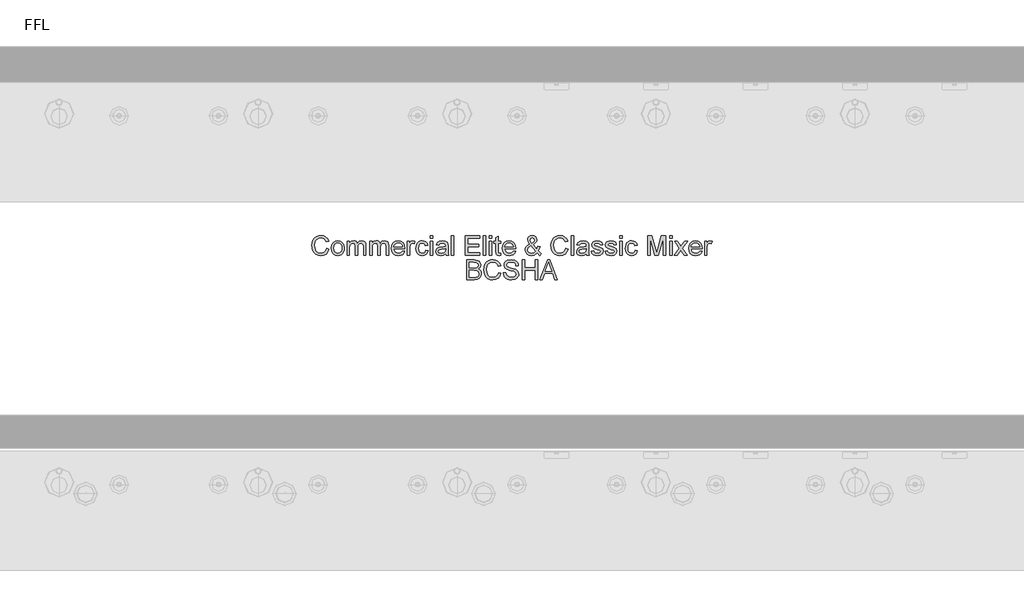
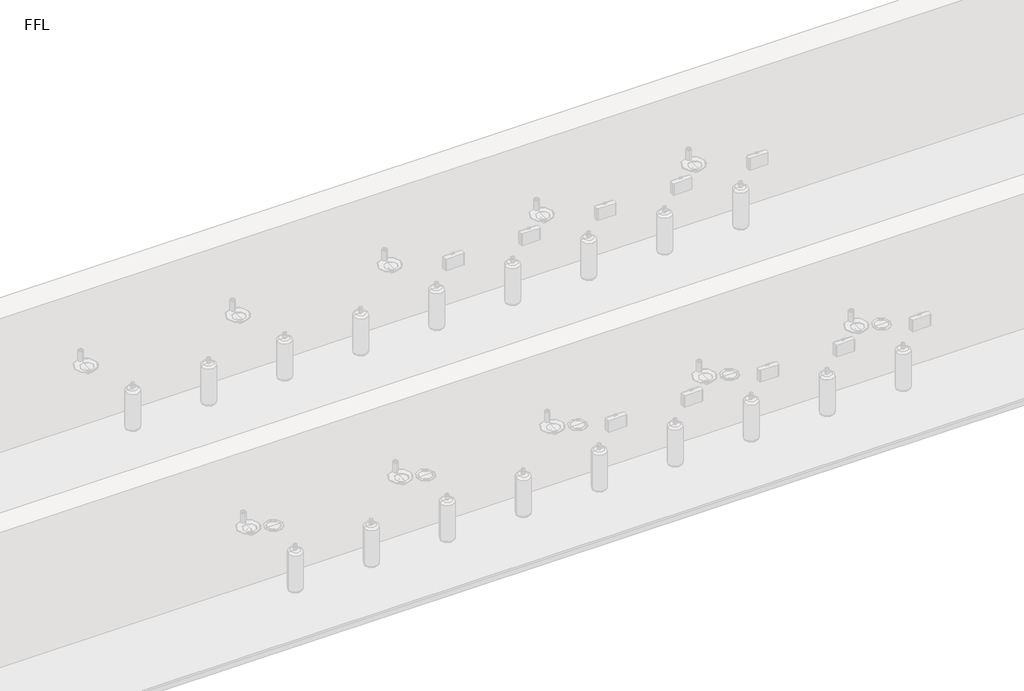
# One storey, part 6 of 13: 1 proxy.
"""IFC4 building model written with IfcOpenShell, lengths in millimetres."""

from ifc_helpers import new_model, si_unit, origin, origin_with_axes, place, context, project, spatial, polyline, outline, extrude, element, save

model = new_model("IFC4")

# Units and contexts
model_context = context("Model", 3, world=origin())
ifc_project = project(units=[si_unit("LENGTHUNIT", "METRE", prefix="MILLI")], contexts=[model_context])

# Site, building, storey
site = spatial("IfcSite", under=ifc_project)
building = spatial("IfcBuilding", under=site)
storey = spatial("IfcBuildingStorey", under=building, Name="FFL", Elevation=0.0)

# Proxy
placement = place(None, origin())
element("IfcBuildingElementProxy", 1, Name="150mm Arial", ObjectType="150mm Arial", at=placement, inside=storey, context=model_context, shape_type="SweptSolid", body=[
    extrude(outline(polyline([(5546.3223994, -1683.6981691), (5564.7839379, -1688.4577845), (5556.2653081, -1709.9707052), (5542.8969187, -1725.6873518), (5525.3368225, -1735.301234), (5504.2430725, -1738.5058614), (5482.8293105, -1736.0809816), (5465.8236014, -1728.8063422), (5452.7887456, -1716.934347), (5443.2875437, -1700.7173999), (5437.4867624, -1681.6518951), (5435.5531687, -1661.2342268), (5437.7391663, -1639.6987701), (5444.2971591, -1621.1020153), (5454.884599, -1606.0344071), (5469.1589379, -1595.0863903), (5486.0880244, -1588.4202244), (5504.6397071, -1586.1981691), (5524.8815941, -1589.0737701), (5541.6168706, -1597.700573), (5554.3226999, -1611.5467268), (5562.4762456, -1630.0803807), (5544.0147071, -1634.4794191), (5537.6144667, -1621.0163783), (5528.8704764, -1611.7811018), (5517.6745629, -1606.4400561), (5503.9185533, -1604.6597076), (5488.0621831, -1606.6338662), (5475.0363417, -1612.5563422), (5465.1520268, -1621.8051403), (5458.720236, -1633.7582653), (5454.0147071, -1661.1981691), (5459.5856206, -1693.0010537), (5466.7070148, -1704.8775561), (5476.9293706, -1713.3195633), (5489.1844788, -1718.3631331), (5502.4041302, -1720.044323), (5517.8142865, -1717.7546595), (5530.6553321, -1710.8856691), (5540.3503441, -1699.5094672), (5546.3223994, -1683.6981691)])), origin_with_axes(), (0.0, 0.0, 1.0), 5.0),
    extrude(outline(polyline([(5583.2454764, -1681.9673999), (5587.2388658, -1655.8165585), (5599.2190341, -1637.4361499), (5614.0207167, -1628.4307412), (5631.7430725, -1625.4289383), (5651.1376038, -1629.0842869), (5666.6288898, -1640.0503326), (5676.7836374, -1657.4616908), (5680.1685533, -1680.4529768), (5678.6721591, -1699.1038182), (5674.1829764, -1713.3015345), (5666.8317143, -1723.9340465), (5656.7490821, -1731.8892749), (5644.7734211, -1736.8517148), (5631.7430725, -1738.5058614), (5612.1141663, -1734.8640345), (5596.6409091, -1723.9385537), (5586.5943345, -1706.1621114), (5583.2454764, -1681.9673999)]), holes=[polyline([(5601.7070148, -1681.9313422), (5603.8434331, -1698.6395754), (5610.2526879, -1710.543121), (5619.8981206, -1717.6690225), (5631.7430725, -1720.044323), (5643.5339379, -1717.6555008), (5653.1613417, -1710.4890345), (5659.5705966, -1698.4277364), (5661.7070148, -1681.3544191), (5659.5570749, -1665.1329648), (5653.1072552, -1653.3916787), (5643.4663297, -1646.2657773), (5631.7430725, -1643.8904768), (5619.8981206, -1646.2567629), (5610.2526879, -1653.355621), (5603.8434331, -1665.2321234), (5601.7070148, -1681.9313422)])]), origin_with_axes(), (0.0, 0.0, 1.0), 5.0),
    extrude(outline(polyline([(5700.9377841, -1736.1981691), (5700.9377841, -1627.7366307), (5719.3993225, -1627.7366307), (5719.3993225, -1645.5851883), (5732.0916302, -1630.9637941), (5750.1565341, -1625.4289383), (5760.4239619, -1626.8396956), (5768.6541302, -1631.0719672), (5778.8223994, -1646.8832653), (5793.2274475, -1630.7925201), (5811.4185533, -1625.4289383), (5825.2962576, -1627.6600081), (5835.5591783, -1634.3532172), (5841.9008249, -1645.6888542), (5844.0147071, -1661.8472076), (5844.0147071, -1736.1981691), (5825.5531687, -1736.1981691), (5825.5531687, -1669.7798999), (5823.8404283, -1654.3652364), (5817.6385052, -1646.7750922), (5807.0916302, -1643.8904768), (5797.0901278, -1645.7384335), (5788.9365821, -1651.2823037), (5783.5144066, -1660.9006932), (5781.7070148, -1674.9722076), (5781.7070148, -1736.1981691), (5763.2454764, -1736.1981691), (5763.2454764, -1667.7246114), (5758.9726398, -1649.839996), (5753.3341182, -1645.3778566), (5744.9642264, -1643.8904768), (5731.298361, -1647.856823), (5722.2118225, -1659.4673999), (5719.3993225, -1681.4986499), (5719.3993225, -1736.1981691), (5700.9377841, -1736.1981691)])), origin_with_axes(), (0.0, 0.0, 1.0), 5.0),
    extrude(outline(polyline([(5871.7070148, -1736.1981691), (5871.7070148, -1627.7366307), (5890.1685533, -1627.7366307), (5890.1685533, -1645.5851883), (5902.860861, -1630.9637941), (5920.9257648, -1625.4289383), (5931.1931927, -1626.8396956), (5939.423361, -1631.0719672), (5949.5916302, -1646.8832653), (5963.9966783, -1630.7925201), (5982.1877841, -1625.4289383), (5996.0654884, -1627.6600081), (6006.3284091, -1634.3532172), (6012.6700557, -1645.6888542), (6014.7839379, -1661.8472076), (6014.7839379, -1736.1981691), (5996.3223994, -1736.1981691), (5996.3223994, -1669.7798999), (5994.6096591, -1654.3652364), (5988.407736, -1646.7750922), (5977.860861, -1643.8904768), (5967.8593586, -1645.7384335), (5959.7058129, -1651.2823037), (5954.2836374, -1660.9006932), (5952.4762456, -1674.9722076), (5952.4762456, -1736.1981691), (5934.0147071, -1736.1981691), (5934.0147071, -1667.7246114), (5929.7418706, -1649.839996), (5924.103349, -1645.3778566), (5915.7334571, -1643.8904768), (5902.0675917, -1647.856823), (5892.9810533, -1659.4673999), (5890.1685533, -1681.4986499), (5890.1685533, -1736.1981691), (5871.7070148, -1736.1981691)])), origin_with_axes(), (0.0, 0.0, 1.0), 5.0),
    extrude(outline(polyline([(6118.4137456, -1703.8904768), (6136.5147071, -1706.1981691), (6129.992772, -1719.8369912), (6119.5856206, -1730.0323037), (6105.5276278, -1736.387472), (6088.0531687, -1738.5058614), (6066.39151, -1734.8505129), (6049.7238417, -1723.8844672), (6039.0958369, -1706.3198638), (6035.5531687, -1682.8688422), (6039.1318946, -1658.6290585), (6049.8680725, -1640.5010537), (6066.3103802, -1629.1969672), (6087.0074956, -1625.4289383), (6107.0600797, -1629.1879528), (6123.0832167, -1640.464996), (6133.5895268, -1658.5569432), (6137.0916302, -1682.7606691), (6136.9834571, -1687.7366307), (6054.0147071, -1687.7366307), (6057.2103201, -1701.5557412), (6064.6336975, -1711.714996), (6075.3473393, -1717.9619912), (6088.4137456, -1720.044323), (6106.5147071, -1716.1861499), (6118.4137456, -1703.8904768)]), holes=[polyline([(6054.0147071, -1669.2750922), (6118.6300917, -1669.2750922), (6116.1330966, -1659.5214864), (6111.2382648, -1652.544323), (6100.4750437, -1646.0539383), (6086.9353802, -1643.8904768), (6074.4909691, -1645.6167388), (6064.2010052, -1650.7955249), (6057.0480605, -1658.8679408), (6054.0147071, -1669.2750922)])]), origin_with_axes(), (0.0, 0.0, 1.0), 5.0),
    extrude(outline(polyline([(6155.5531687, -1736.1981691), (6155.5531687, -1627.7366307), (6171.7070148, -1627.7366307), (6171.7070148, -1643.7823037), (6183.173361, -1628.9986499), (6194.7118225, -1625.4289383), (6213.2454764, -1631.1260537), (6207.079611, -1647.6765345), (6194.0988417, -1643.8904768), (6183.6601398, -1647.5323037), (6177.0074956, -1657.6284576), (6174.0147071, -1679.1909576), (6174.0147071, -1736.1981691), (6155.5531687, -1736.1981691)])), origin_with_axes(), (0.0, 0.0, 1.0), 5.0),
    extrude(outline(polyline([(6294.0147071, -1696.9673999), (6312.4762456, -1699.2750922), (6307.32901, -1715.6948638), (6297.6565341, -1728.1032172), (6284.3692744, -1735.9052004), (6268.3776879, -1738.5058614), (6248.7397672, -1734.8775561), (6233.3836975, -1723.9926403), (6223.4723393, -1706.3288783), (6220.1685533, -1682.3640345), (6225.8115821, -1651.6969672), (6232.9329764, -1640.1990706), (6243.0111014, -1631.9914383), (6255.0678922, -1627.0695633), (6268.1252841, -1625.4289383), (6283.7247432, -1627.6825441), (6296.1961975, -1634.4433614), (6305.1430124, -1645.3508133), (6310.1685533, -1660.044323), (6291.7070148, -1662.3520153), (6283.1433129, -1648.5238903), (6268.2695148, -1643.8904768), (6256.3389259, -1646.1711258), (6246.8692744, -1653.013073), (6240.6898874, -1664.7859095), (6238.6300917, -1681.8592268), (6240.6448153, -1699.1624119), (6246.688986, -1710.9758133), (6255.9873634, -1717.7771956), (6267.7647071, -1720.044323), (6277.3245028, -1718.6290585), (6285.1625437, -1714.3832653), (6290.8641663, -1707.1987701), (6294.0147071, -1696.9673999)])), origin_with_axes(), (0.0, 0.0, 1.0), 5.0),
    extrude(outline(polyline([(6328.6300917, -1606.9673999), (6328.6300917, -1588.5058614), (6347.0916302, -1588.5058614), (6347.0916302, -1606.9673999), (6328.6300917, -1606.9673999)])), origin_with_axes(), (0.0, 0.0, 1.0), 5.0),
    extrude(outline(polyline([(6328.6300917, -1736.1981691), (6328.6300917, -1627.7366307), (6347.0916302, -1627.7366307), (6347.0916302, -1736.1981691), (6328.6300917, -1736.1981691)])), origin_with_axes(), (0.0, 0.0, 1.0), 5.0),
    extrude(outline(polyline([(6444.0147071, -1722.3520153), (6426.1120629, -1734.8640345), (6406.3344187, -1738.5058614), (6390.9062336, -1736.3153566), (6379.5255244, -1729.7438422), (6372.5077961, -1719.7648758), (6370.1685533, -1707.3520153), (6373.7022071, -1692.7486499), (6382.9870629, -1682.1476883), (6395.9137456, -1676.089996), (6411.8873033, -1673.3135537), (6443.9065341, -1666.9673999), (6444.0147071, -1662.856823), (6442.7436735, -1654.6176403), (6438.9305725, -1649.2270153), (6430.4029283, -1645.2246114), (6418.5219187, -1643.8904768), (6399.8440341, -1647.4421595), (6390.9377841, -1660.044323), (6372.4762456, -1657.7366307), (6380.4630244, -1639.7077845), (6396.5447552, -1629.1428807), (6420.9017264, -1625.4289383), (6443.2755244, -1628.7101883), (6455.9137456, -1636.949371), (6461.5748033, -1649.4794191), (6462.4762456, -1665.6332653), (6462.4762456, -1688.6020153), (6463.4137456, -1720.6753326), (6467.0916302, -1736.1981691), (6448.6300917, -1736.1981691), (6444.0147071, -1722.3520153)]), holes=[polyline([(6444.0147071, -1685.4289383), (6414.2310533, -1691.089996), (6398.3476398, -1694.0827845), (6391.1541302, -1698.950573), (6388.6300917, -1706.0539383), (6394.1288898, -1716.0419191), (6410.2647071, -1720.044323), (6428.9425917, -1715.6272557), (6440.985861, -1704.9361499), (6443.9065341, -1690.6573037), (6444.0147071, -1685.4289383)])]), origin_with_axes(), (0.0, 0.0, 1.0), 5.0),
    extrude(outline(polyline([(6487.860861, -1736.1981691), (6487.860861, -1588.5058614), (6506.3223994, -1588.5058614), (6506.3223994, -1736.1981691), (6487.860861, -1736.1981691)])), origin_with_axes(), (0.0, 0.0, 1.0), 5.0),
    extrude(outline(polyline([(6594.0147071, -1736.1981691), (6594.0147071, -1588.5058614), (6700.1685533, -1588.5058614), (6700.1685533, -1606.9673999), (6612.4762456, -1606.9673999), (6612.4762456, -1650.8135537), (6695.5531687, -1650.8135537), (6695.5531687, -1669.2750922), (6612.4762456, -1669.2750922), (6612.4762456, -1717.7366307), (6702.4762456, -1717.7366307), (6702.4762456, -1736.1981691), (6594.0147071, -1736.1981691)])), origin_with_axes(), (0.0, 0.0, 1.0), 5.0),
    extrude(outline(polyline([(6727.860861, -1736.1981691), (6727.860861, -1588.5058614), (6746.3223994, -1588.5058614), (6746.3223994, -1736.1981691), (6727.860861, -1736.1981691)])), origin_with_axes(), (0.0, 0.0, 1.0), 5.0),
    extrude(outline(polyline([(6774.0147071, -1736.1981691), (6774.0147071, -1627.7366307), (6792.4762456, -1627.7366307), (6792.4762456, -1736.1981691), (6774.0147071, -1736.1981691)])), origin_with_axes(), (0.0, 0.0, 1.0), 5.0),
    extrude(outline(polyline([(6774.0147071, -1606.9673999), (6774.0147071, -1588.5058614), (6792.4762456, -1588.5058614), (6792.4762456, -1606.9673999), (6774.0147071, -1606.9673999)])), origin_with_axes(), (0.0, 0.0, 1.0), 5.0),
    extrude(outline(polyline([(6859.3993225, -1720.8015345), (6861.7070148, -1736.7390345), (6847.8969187, -1738.5058614), (6832.4281687, -1735.4409576), (6824.7118225, -1727.4000922), (6822.4762456, -1706.450573), (6822.4762456, -1646.1981691), (6808.6300917, -1646.1981691), (6808.6300917, -1627.7366307), (6822.4762456, -1627.7366307), (6822.4762456, -1601.3784576), (6840.9377841, -1590.5250922), (6840.9377841, -1627.7366307), (6859.3993225, -1627.7366307), (6859.3993225, -1646.1981691), (6840.9377841, -1646.1981691), (6840.9377841, -1705.9097076), (6841.9113417, -1715.4289383), (6845.0663898, -1718.8003326), (6851.3584571, -1720.044323), (6859.3993225, -1720.8015345)])), origin_with_axes(), (0.0, 0.0, 1.0), 5.0),
    extrude(outline(polyline([(6953.798361, -1703.8904768), (6971.8993225, -1706.1981691), (6965.3773874, -1719.8369912), (6954.970236, -1730.0323037), (6940.9122432, -1736.387472), (6923.4377841, -1738.5058614), (6901.7761254, -1734.8505129), (6885.1084571, -1723.8844672), (6874.4804523, -1706.3198638), (6870.9377841, -1682.8688422), (6874.51651, -1658.6290585), (6885.2526879, -1640.5010537), (6901.6949956, -1629.1969672), (6922.392111, -1625.4289383), (6942.4446951, -1629.1879528), (6958.4678321, -1640.464996), (6968.9741422, -1658.5569432), (6972.4762456, -1682.7606691), (6972.3680725, -1687.7366307), (6889.3993225, -1687.7366307), (6892.5949355, -1701.5557412), (6900.0183129, -1711.714996), (6910.7319547, -1717.9619912), (6923.798361, -1720.044323), (6941.8993225, -1716.1861499), (6953.798361, -1703.8904768)]), holes=[polyline([(6889.3993225, -1669.2750922), (6954.0147071, -1669.2750922), (6951.5177119, -1659.5214864), (6946.6228802, -1652.544323), (6935.8596591, -1646.0539383), (6922.3199956, -1643.8904768), (6909.8755845, -1645.6167388), (6899.5856206, -1650.7955249), (6892.4326759, -1658.8679408), (6889.3993225, -1669.2750922)])]), origin_with_axes(), (0.0, 0.0, 1.0), 5.0),
    extrude(outline(polyline([(7133.329611, -1717.9529768), (7113.7502841, -1733.3676403), (7090.8536494, -1738.5058614), (7070.4810533, -1734.7017749), (7054.7959571, -1723.2895153), (7046.7100196, -1710.1555008), (7044.0147071, -1695.5611499), (7046.1826759, -1682.6254528), (7052.6865821, -1671.0058614), (7063.4993826, -1660.7113903), (7078.5940341, -1651.7510537), (7065.7034091, -1633.0731691), (7062.4762456, -1619.2270153), (7065.0183129, -1606.7600682), (7072.6445148, -1596.0419191), (7084.1198754, -1588.6591066), (7098.2094187, -1586.1981691), (7111.6138658, -1588.5509335), (7122.3320148, -1595.6092268), (7129.3632648, -1605.9667989), (7131.7070148, -1618.2173999), (7129.9717384, -1628.5028566), (7124.7659091, -1638.013073), (7103.9425917, -1654.7077845), (7130.6613417, -1687.9890345), (7138.6300917, -1667.544323), (7157.0916302, -1671.5467268), (7144.0387456, -1701.9433614), (7166.3223994, -1724.2991307), (7152.4762456, -1738.5058614), (7133.329611, -1717.9529768)]), holes=[polyline([(7094.6036494, -1643.0611499), (7109.7839379, -1631.6128326), (7113.2454764, -1620.7414383), (7108.6841783, -1609.1488903), (7097.2719187, -1604.6597076), (7085.6072552, -1609.1128326), (7080.9377841, -1619.9842268), (7082.5243225, -1626.7450441), (7087.3199956, -1634.263073), (7094.6036494, -1643.0611499)]), polyline([(7120.9618225, -1704.6476883), (7088.0050917, -1663.5058614), (7067.7226398, -1678.9746114), (7062.4762456, -1693.1092268), (7064.2701158, -1701.8171595), (7069.6517264, -1710.8496114), (7078.3236014, -1717.7456451), (7089.9882648, -1720.044323), (7106.9534091, -1715.7534576), (7120.9618225, -1704.6476883)])]), origin_with_axes(), (0.0, 0.0, 1.0), 5.0),
    extrude(outline(polyline([(7348.6300917, -1683.6981691), (7367.0916302, -1688.4577845), (7358.5730004, -1709.9707052), (7345.204611, -1725.6873518), (7327.6445148, -1735.301234), (7306.5507648, -1738.5058614), (7285.1370028, -1736.0809816), (7268.1312937, -1728.8063422), (7255.0964379, -1716.934347), (7245.595236, -1700.7173999), (7239.7944547, -1681.6518951), (7237.860861, -1661.2342268), (7240.0468586, -1639.6987701), (7246.6048514, -1621.1020153), (7257.1922913, -1606.0344071), (7271.4666302, -1595.0863903), (7288.3957167, -1588.4202244), (7306.9473994, -1586.1981691), (7327.1892865, -1589.0737701), (7343.9245629, -1597.700573), (7356.6303922, -1611.5467268), (7364.7839379, -1630.0803807), (7346.3223994, -1634.4794191), (7339.9221591, -1621.0163783), (7331.1781687, -1611.7811018), (7319.9822552, -1606.4400561), (7306.2262456, -1604.6597076), (7290.3698754, -1606.6338662), (7277.3440341, -1612.5563422), (7267.4597191, -1621.8051403), (7261.0279283, -1633.7582653), (7256.3223994, -1661.1981691), (7261.8933129, -1693.0010537), (7269.0147071, -1704.8775561), (7279.2370629, -1713.3195633), (7291.4921711, -1718.3631331), (7304.7118225, -1720.044323), (7320.1219788, -1717.7546595), (7332.9630244, -1710.8856691), (7342.6580365, -1699.5094672), (7348.6300917, -1683.6981691)])), origin_with_axes(), (0.0, 0.0, 1.0), 5.0),
    extrude(outline(polyline([(7390.1685533, -1736.1981691), (7390.1685533, -1588.5058614), (7408.6300917, -1588.5058614), (7408.6300917, -1736.1981691), (7390.1685533, -1736.1981691)])), origin_with_axes(), (0.0, 0.0, 1.0), 5.0),
    extrude(outline(polyline([(7505.5531687, -1722.3520153), (7487.6505244, -1734.8640345), (7467.8728802, -1738.5058614), (7452.4446951, -1736.3153566), (7441.063986, -1729.7438422), (7434.0462576, -1719.7648758), (7431.7070148, -1707.3520153), (7435.2406687, -1692.7486499), (7444.5255244, -1682.1476883), (7457.4522071, -1676.089996), (7473.4257648, -1673.3135537), (7505.4449956, -1666.9673999), (7505.5531687, -1662.856823), (7504.282135, -1654.6176403), (7500.4690341, -1649.2270153), (7491.9413898, -1645.2246114), (7480.0603802, -1643.8904768), (7461.3824956, -1647.4421595), (7452.4762456, -1660.044323), (7434.0147071, -1657.7366307), (7442.001486, -1639.7077845), (7458.0832167, -1629.1428807), (7482.4401879, -1625.4289383), (7504.813986, -1628.7101883), (7517.4522071, -1636.949371), (7523.1132648, -1649.4794191), (7524.0147071, -1665.6332653), (7524.0147071, -1688.6020153), (7524.9522071, -1720.6753326), (7528.6300917, -1736.1981691), (7510.1685533, -1736.1981691), (7505.5531687, -1722.3520153)]), holes=[polyline([(7505.5531687, -1685.4289383), (7475.7695148, -1691.089996), (7459.8861014, -1694.0827845), (7452.6925917, -1698.950573), (7450.1685533, -1706.0539383), (7455.6673514, -1716.0419191), (7471.8031687, -1720.044323), (7490.4810533, -1715.6272557), (7502.5243225, -1704.9361499), (7505.4449956, -1690.6573037), (7505.5531687, -1685.4289383)])]), origin_with_axes(), (0.0, 0.0, 1.0), 5.0),
    extrude(outline(polyline([(7542.4762456, -1703.8904768), (7560.9377841, -1701.5827845), (7563.8494427, -1709.4794191), (7569.4834571, -1715.2847076), (7589.0627841, -1720.044323), (7607.8848994, -1715.6813422), (7614.0147071, -1705.4409576), (7607.8488417, -1697.1476883), (7588.8464379, -1691.8832653), (7561.0459571, -1682.8508133), (7548.9125437, -1672.3039383), (7544.7839379, -1657.4121114), (7548.1012456, -1643.6561018), (7557.1517264, -1633.1452845), (7568.8885052, -1627.6825441), (7584.7719187, -1625.4289383), (7607.235861, -1629.0527364), (7621.5147071, -1638.8604287), (7627.860861, -1655.4289383), (7609.3993225, -1657.7366307), (7602.4582167, -1647.5503326), (7586.2142264, -1643.8904768), (7568.5459571, -1647.388073), (7563.2454764, -1655.5371114), (7565.4449956, -1660.9097076), (7572.3320148, -1664.9842268), (7588.2334571, -1668.9145153), (7615.3308129, -1677.6044191), (7627.9149475, -1687.4481691), (7632.4762456, -1703.4938422), (7627.1216783, -1721.1621114), (7611.6709571, -1733.980621), (7588.8103802, -1738.5058614), (7570.1955966, -1736.324371), (7556.610861, -1729.7798999), (7547.5423514, -1718.9445633), (7542.4762456, -1703.8904768)])), origin_with_axes(), (0.0, 0.0, 1.0), 5.0),
    extrude(outline(polyline([(7646.3223994, -1703.8904768), (7664.7839379, -1701.5827845), (7667.6955966, -1709.4794191), (7673.329611, -1715.2847076), (7692.9089379, -1720.044323), (7711.7310533, -1715.6813422), (7717.860861, -1705.4409576), (7711.6949956, -1697.1476883), (7692.6925917, -1691.8832653), (7664.892111, -1682.8508133), (7652.7586975, -1672.3039383), (7648.6300917, -1657.4121114), (7651.9473994, -1643.6561018), (7660.9978802, -1633.1452845), (7672.7346591, -1627.6825441), (7688.6180725, -1625.4289383), (7711.0820148, -1629.0527364), (7725.360861, -1638.8604287), (7731.7070148, -1655.4289383), (7713.2454764, -1657.7366307), (7706.3043706, -1647.5503326), (7690.0603802, -1643.8904768), (7672.392111, -1647.388073), (7667.0916302, -1655.5371114), (7669.2911494, -1660.9097076), (7676.1781687, -1664.9842268), (7692.079611, -1668.9145153), (7719.1769667, -1677.6044191), (7731.7611014, -1687.4481691), (7736.3223994, -1703.4938422), (7730.9678321, -1721.1621114), (7715.517111, -1733.980621), (7692.6565341, -1738.5058614), (7674.0417504, -1736.324371), (7660.4570148, -1729.7798999), (7651.3885052, -1718.9445633), (7646.3223994, -1703.8904768)])), origin_with_axes(), (0.0, 0.0, 1.0), 5.0),
    extrude(outline(polyline([(7757.0916302, -1736.1981691), (7757.0916302, -1627.7366307), (7775.5531687, -1627.7366307), (7775.5531687, -1736.1981691), (7757.0916302, -1736.1981691)])), origin_with_axes(), (0.0, 0.0, 1.0), 5.0),
    extrude(outline(polyline([(7757.0916302, -1606.9673999), (7757.0916302, -1588.5058614), (7775.5531687, -1588.5058614), (7775.5531687, -1606.9673999), (7757.0916302, -1606.9673999)])), origin_with_axes(), (0.0, 0.0, 1.0), 5.0),
    extrude(outline(polyline([(7872.4762456, -1696.9673999), (7890.9377841, -1699.2750922), (7885.7905485, -1715.6948638), (7876.1180725, -1728.1032172), (7862.8308129, -1735.9052004), (7846.8392264, -1738.5058614), (7827.2013057, -1734.8775561), (7811.845236, -1723.9926403), (7801.9338778, -1706.3288783), (7798.6300917, -1682.3640345), (7804.2731206, -1651.6969672), (7811.3945148, -1640.1990706), (7821.4726398, -1631.9914383), (7833.5294307, -1627.0695633), (7846.5868225, -1625.4289383), (7862.1862816, -1627.6825441), (7874.657736, -1634.4433614), (7883.6045509, -1645.3508133), (7888.6300917, -1660.044323), (7870.1685533, -1662.3520153), (7861.6048514, -1648.5238903), (7846.7310533, -1643.8904768), (7834.8004643, -1646.1711258), (7825.3308129, -1653.013073), (7819.1514259, -1664.7859095), (7817.0916302, -1681.8592268), (7819.1063538, -1699.1624119), (7825.1505244, -1710.9758133), (7834.4489018, -1717.7771956), (7846.2262456, -1720.044323), (7855.7860413, -1718.6290585), (7863.6240821, -1714.3832653), (7869.3257047, -1707.1987701), (7872.4762456, -1696.9673999)])), origin_with_axes(), (0.0, 0.0, 1.0), 5.0),
    extrude(outline(polyline([(7967.0916302, -1736.1981691), (7967.0916302, -1588.5058614), (7998.8584571, -1588.5058614), (8029.0748033, -1692.6044191), (8035.1685533, -1714.3472076), (8041.767111, -1690.8015345), (8071.4786494, -1588.5058614), (8103.2454764, -1588.5058614), (8103.2454764, -1736.1981691), (8084.7839379, -1736.1981691), (8084.7839379, -1606.9673999), (8047.6805725, -1736.1981691), (8022.6565341, -1736.1981691), (7985.5531687, -1606.9673999), (7985.5531687, -1736.1981691), (7967.0916302, -1736.1981691)])), origin_with_axes(), (0.0, 0.0, 1.0), 5.0),
    extrude(outline(polyline([(8133.2454764, -1606.9673999), (8133.2454764, -1588.5058614), (8151.7070148, -1588.5058614), (8151.7070148, -1606.9673999), (8133.2454764, -1606.9673999)])), origin_with_axes(), (0.0, 0.0, 1.0), 5.0),
    extrude(outline(polyline([(8133.2454764, -1736.1981691), (8133.2454764, -1627.7366307), (8151.7070148, -1627.7366307), (8151.7070148, -1736.1981691), (8133.2454764, -1736.1981691)])), origin_with_axes(), (0.0, 0.0, 1.0), 5.0),
    extrude(outline(polyline([(8167.860861, -1736.1981691), (8207.3079764, -1681.6789383), (8170.1685533, -1627.7366307), (8192.3800917, -1627.7366307), (8210.3007648, -1653.6981691), (8218.6661494, -1665.9577845), (8225.9137456, -1655.933746), (8246.3223994, -1627.7366307), (8268.5339379, -1627.7366307), (8229.5195148, -1681.6789383), (8267.0916302, -1736.1981691), (8244.8800917, -1736.1981691), (8222.2719187, -1703.4217268), (8218.1252841, -1697.4361499), (8190.0723994, -1736.1981691), (8167.860861, -1736.1981691)])), origin_with_axes(), (0.0, 0.0, 1.0), 5.0),
    extrude(outline(polyline([(8359.1829764, -1703.8904768), (8377.2839379, -1706.1981691), (8370.7620028, -1719.8369912), (8360.3548514, -1730.0323037), (8346.2968586, -1736.387472), (8328.8223994, -1738.5058614), (8307.1607408, -1734.8505129), (8290.4930725, -1723.8844672), (8279.8650677, -1706.3198638), (8276.3223994, -1682.8688422), (8279.9011254, -1658.6290585), (8290.6373033, -1640.5010537), (8307.079611, -1629.1969672), (8327.7767264, -1625.4289383), (8347.8293105, -1629.1879528), (8363.8524475, -1640.464996), (8374.3587576, -1658.5569432), (8377.860861, -1682.7606691), (8377.7526879, -1687.7366307), (8294.7839379, -1687.7366307), (8297.9795509, -1701.5557412), (8305.4029283, -1711.714996), (8316.1165701, -1717.9619912), (8329.1829764, -1720.044323), (8347.2839379, -1716.1861499), (8359.1829764, -1703.8904768)]), holes=[polyline([(8294.7839379, -1669.2750922), (8359.3993225, -1669.2750922), (8356.9023273, -1659.5214864), (8352.0074956, -1652.544323), (8341.2442744, -1646.0539383), (8327.704611, -1643.8904768), (8315.2601999, -1645.6167388), (8304.970236, -1650.7955249), (8297.8172913, -1658.8679408), (8294.7839379, -1669.2750922)])]), origin_with_axes(), (0.0, 0.0, 1.0), 5.0),
    extrude(outline(polyline([(8396.3223994, -1736.1981691), (8396.3223994, -1627.7366307), (8412.4762456, -1627.7366307), (8412.4762456, -1643.7823037), (8423.9425917, -1628.9986499), (8435.4810533, -1625.4289383), (8454.0147071, -1631.1260537), (8447.8488417, -1647.6765345), (8434.8680725, -1643.8904768), (8424.4293706, -1647.5323037), (8417.7767264, -1657.6284576), (8414.7839379, -1679.1909576), (8414.7839379, -1736.1981691), (8396.3223994, -1736.1981691)])), origin_with_axes(), (0.0, 0.0, 1.0), 5.0),
    extrude(outline(polyline([(6603.2454764, -1918.5058614), (6603.2454764, -1770.8135537), (6659.6036494, -1770.8135537), (6687.2058129, -1775.1585057), (6696.4816542, -1780.6708254), (6703.5038898, -1788.5178807), (6709.3993225, -1807.4121114), (6704.4413898, -1824.6657172), (6689.4594187, -1837.7366307), (6699.9206566, -1843.199371), (6707.6505244, -1851.5106691), (6712.4236615, -1862.1206451), (6714.0147071, -1874.4794191), (6709.6697552, -1894.3291787), (6698.9065341, -1908.4637941), (6682.8428321, -1915.9637941), (6659.1709571, -1918.5058614), (6603.2454764, -1918.5058614)]), holes=[polyline([(6621.7070148, -1830.8135537), (6655.4209571, -1830.8135537), (6675.1084571, -1829.2270153), (6686.9534091, -1822.3940826), (6690.9377841, -1810.3688422), (6687.2238417, -1798.325573), (6676.5868225, -1791.2041787), (6652.860861, -1789.2750922), (6621.7070148, -1789.2750922), (6621.7070148, -1830.8135537)]), polyline([(6621.7070148, -1900.044323), (6659.5675917, -1900.044323), (6673.2695148, -1899.3231691), (6684.8620629, -1895.3027364), (6692.5423514, -1887.0996114), (6695.5531687, -1874.6597076), (6692.0195148, -1860.308746), (6680.5711975, -1851.7450441), (6657.7647071, -1849.2750922), (6621.7070148, -1849.2750922), (6621.7070148, -1900.044323)])]), origin_with_axes(), (0.0, 0.0, 1.0), 5.0),
    extrude(outline(polyline([(6843.2454764, -1866.0058614), (6861.7070148, -1870.7654768), (6853.188385, -1892.2783975), (6839.8199956, -1907.9950441), (6822.2598994, -1917.6089263), (6801.1661494, -1920.8135537), (6779.7523874, -1918.3886739), (6762.7466783, -1911.1140345), (6749.7118225, -1899.2420393), (6740.2106206, -1883.0250922), (6734.4098393, -1863.9595874), (6732.4762456, -1843.5419191), (6734.6622432, -1822.0064624), (6741.220236, -1803.4097076), (6751.8076759, -1788.3420994), (6766.0820148, -1777.3940826), (6783.0111014, -1770.7279167), (6801.5627841, -1768.5058614), (6821.8046711, -1771.3814624), (6838.5399475, -1780.0082653), (6851.2457768, -1793.8544191), (6859.3993225, -1812.388073), (6840.9377841, -1816.7871114), (6834.5375437, -1803.3240706), (6825.7935533, -1794.0887941), (6814.5976398, -1788.7477484), (6800.8416302, -1786.9673999), (6784.98526, -1788.9415585), (6771.9594187, -1794.8640345), (6762.0751038, -1804.1128326), (6755.6433129, -1816.0659576), (6750.9377841, -1843.5058614), (6756.5086975, -1875.308746), (6763.6300917, -1887.1852484), (6773.8524475, -1895.6272557), (6786.1075557, -1900.6708254), (6799.3272071, -1902.3520153), (6814.7373634, -1900.0623518), (6827.5784091, -1893.1933614), (6837.2734211, -1881.8171595), (6843.2454764, -1866.0058614)])), origin_with_axes(), (0.0, 0.0, 1.0), 5.0),
    extrude(outline(polyline([(6880.1685533, -1867.7366307), (6898.6300917, -1867.7366307), (6904.579611, -1886.216198), (6919.110861, -1897.8988903), (6941.2502841, -1902.3520153), (6960.5411494, -1898.980621), (6972.9990821, -1889.7137941), (6977.0916302, -1877.3279768), (6974.0267264, -1865.8075441), (6961.4786494, -1857.4241307), (6934.5976398, -1850.3748518), (6905.6613417, -1841.2702845), (6889.9582167, -1827.5323037), (6884.7839379, -1809.1789383), (6886.383998, -1798.3661379), (6891.1841783, -1788.2835057), (6899.0582768, -1779.7378326), (6909.8800917, -1773.5359095), (6937.2478802, -1768.5058614), (6966.454611, -1773.7702845), (6977.6505244, -1780.2696835), (6985.9257648, -1789.2390345), (6991.1631446, -1800.1194432), (6993.2454764, -1812.3520153), (6974.7839379, -1812.3520153), (6971.3945148, -1801.3363903), (6964.3272071, -1793.3856691), (6953.2845389, -1788.5719672), (6937.9690341, -1786.9673999), (6922.2929523, -1788.5539383), (6911.5387456, -1793.3135537), (6905.3187937, -1800.3177605), (6903.2454764, -1808.638073), (6904.7148273, -1815.7324239), (6909.1228802, -1821.4385537), (6939.267111, -1831.7510537), (6971.9353802, -1841.0178807), (6982.4597191, -1847.715597), (6989.8019667, -1855.981823), (6995.5531687, -1876.8592268), (6993.899022, -1888.2399359), (6988.9365821, -1898.9445633), (6980.8686735, -1908.1573037), (6969.8981206, -1915.0623518), (6941.9714379, -1920.8135537), (6923.883998, -1919.263073), (6908.9966783, -1914.6116307), (6897.1382047, -1906.841198), (6888.1373033, -1895.933746), (6882.3590581, -1882.6464864), (6880.1685533, -1867.7366307)])), origin_with_axes(), (0.0, 0.0, 1.0), 5.0),
    extrude(outline(polyline([(7023.2454764, -1918.5058614), (7023.2454764, -1770.8135537), (7041.7070148, -1770.8135537), (7041.7070148, -1830.8135537), (7120.1685533, -1830.8135537), (7120.1685533, -1770.8135537), (7138.6300917, -1770.8135537), (7138.6300917, -1918.5058614), (7120.1685533, -1918.5058614), (7120.1685533, -1849.2750922), (7041.7070148, -1849.2750922), (7041.7070148, -1918.5058614), (7023.2454764, -1918.5058614)])), origin_with_axes(), (0.0, 0.0, 1.0), 5.0),
    extrude(outline(polyline([(7153.7382648, -1918.5058614), (7212.6925917, -1770.8135537), (7228.4137456, -1770.8135537), (7287.3680725, -1918.5058614), (7267.860861, -1918.5058614), (7250.9498033, -1872.3520153), (7190.1204764, -1872.3520153), (7173.2454764, -1918.5058614), (7153.7382648, -1918.5058614)]), holes=[polyline([(7196.8993225, -1853.8904768), (7244.2070148, -1853.8904768), (7230.9017264, -1817.5803807), (7220.5531687, -1789.2750922), (7211.3584571, -1814.4073037), (7196.8993225, -1853.8904768)])]), origin_with_axes(), (0.0, 0.0, 1.0), 5.0),
])

save(model, "model.ifc")
